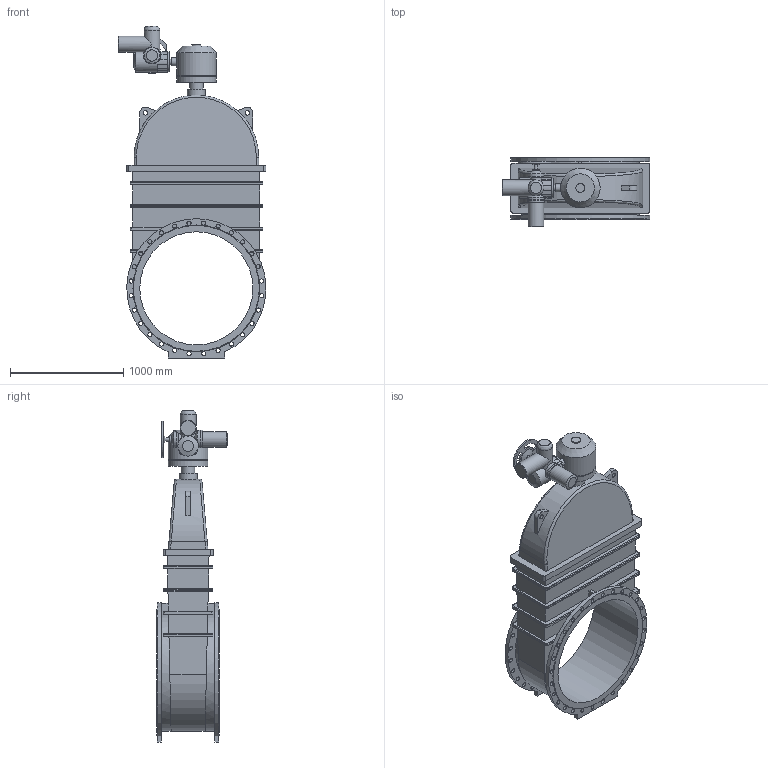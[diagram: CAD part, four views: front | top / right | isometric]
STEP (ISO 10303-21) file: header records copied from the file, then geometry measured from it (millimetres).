
FILE_DESCRIPTION(('STEP AP203'), '1');
FILE_NAME('Çàäâèæêà 47GV.Z DN1000 PN10 + ðåäóêòîð+ÌÒ903.À30', '', ('UNSPECIFIED'), ('UNSPECIFIED'), 'ASCON STEP Converter 1.6', 'ASCON Math Kernel', '');
FILE_SCHEMA(('CONFIG_CONTROL_DESIGN'));
Length unit declared in the file: millimetre
Bounding box: 1307 x 619 x 2932 mm (x, y, z)
Volume: 593483792.6 mm3; surface area: 11130180.4 mm2
Topology: 1 solids, 1 shells, 358 faces, 892 edges, 568 vertices
Faces by surface type: cylinder 172, plane 141, bspline 32, cone 12, torus 1
Full cylindrical faces by diameter (mm): 14 x4, 18 x4, 32 x1, 37 x56, 40 x2, 50 x1, 60 x1, 70 x1, 80 x1, 100 x1, 120 x1, 140 x4, 147 x1, 151 x1, 160 x1, 175 x1, 330 x1, 350 x2, 1000 x1
Entity records: 17266 total; most frequent: CARTESIAN_POINT 6157, DIRECTION 1626, ORIENTED_EDGE 1590, EDGE_CURVE 795, AXIS2_PLACEMENT_3D 633, EDGE_LOOP 611, VERTEX_POINT 568, FACE_BOUND 422
